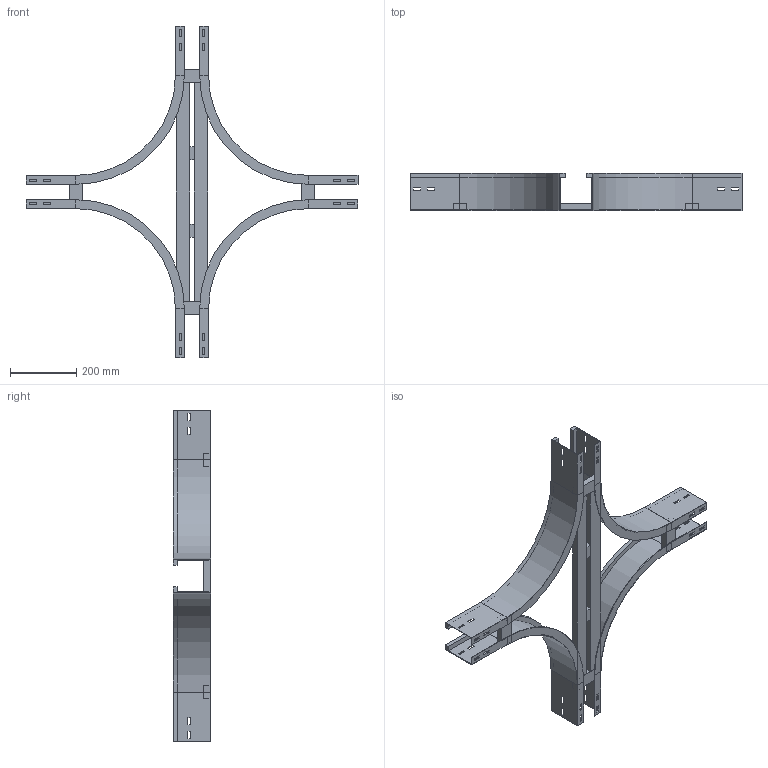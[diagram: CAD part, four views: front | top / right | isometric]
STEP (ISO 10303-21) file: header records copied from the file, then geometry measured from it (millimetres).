
FILE_DESCRIPTION (( 'STEP AP214' ), '1' );
FILE_NAME ('A2_17B3J100.step', '2025-02-21T15:56:31', ( '' ), ( '' ), 'SwSTEP 2.0', 'SolidWorks 2023', '' );
FILE_SCHEMA (( 'AUTOMOTIVE_DESIGN' ));
Length unit declared in the file: millimetre
Products named in the file (5): TRAVERSINO_100; A2_LONGH.INTERNO 90°_H112.5_R300; A2_17B3J100; A2_TRAVERSINO_LONG._R300+100; TRAVERSINO_INTERMEDIO_R300+100
Assembly tree (12 placements, depth 2):
  A2_17B3J100
    A2_LONGH.INTERNO 90°_H112.5_R300  x4
    TRAVERSINO_100  x4
    A2_TRAVERSINO_LONG._R300+100  x2
    TRAVERSINO_INTERMEDIO_R300+100  x2
Bounding box: 1000 x 112.5 x 1000 mm (x, y, z)
Volume: 2852581 mm3; surface area: 1189191.5 mm2
Topology: 12 solids, 12 shells, 280 faces, 704 edges, 448 vertices
Faces by surface type: plane 264, cylinder 16
Entity records: 2442 total; most frequent: CARTESIAN_POINT 399, DIRECTION 378, ORIENTED_EDGE 376, EDGE_CURVE 188, LINE 180, VECTOR 180, VERTEX_POINT 120, AXIS2_PLACEMENT_3D 99
